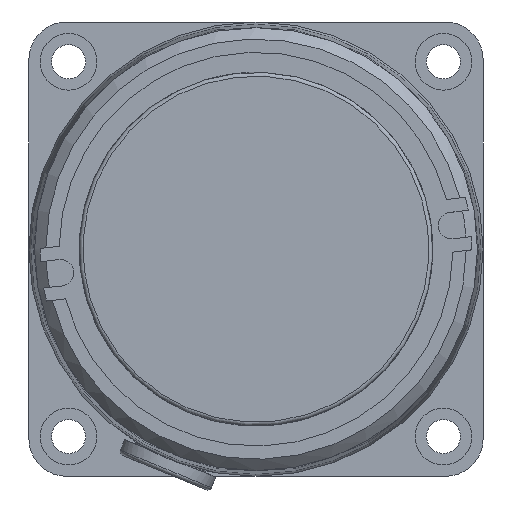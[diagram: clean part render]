
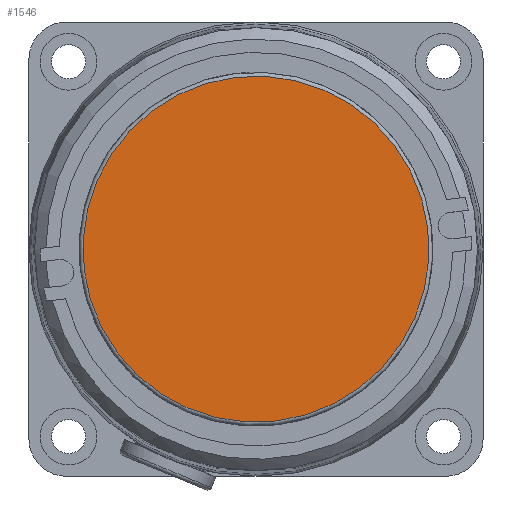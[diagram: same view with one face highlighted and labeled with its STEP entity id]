
A CAD part, left-side view. The second image highlights one B-rep face of the part: STEP entity #1546.
In plain terms, the highlighted planar face has unit normal (-1, 0, 0).
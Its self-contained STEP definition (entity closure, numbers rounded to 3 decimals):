
#1526=CARTESIAN_POINT('',(-11.5,2.734,22.686));
#1527=VERTEX_POINT('',#1526);
#1528=CARTESIAN_POINT('',(-11.5,0.,0.));
#1529=DIRECTION('',(1.0,0.,0.));
#1530=DIRECTION('',(0.,-0.12,-0.993));
#1531=AXIS2_PLACEMENT_3D('',#1528,#1529,#1530);
#1532=CIRCLE('',#1531,22.85);
#1533=EDGE_CURVE('',#1527,#1527,#1532,.T.);
#1538=CARTESIAN_POINT('',(-11.5,2.294,19.037));
#1539=DIRECTION('',(-1.0,0.0,0.0));
#1540=DIRECTION('',(0.0,-0.993,0.12));
#1541=AXIS2_PLACEMENT_3D('',#1538,#1539,#1540);
#1542=PLANE('',#1541);
#1543=ORIENTED_EDGE('',*,*,#1533,.F.);
#1544=EDGE_LOOP('',(#1543));
#1545=FACE_OUTER_BOUND('',#1544,.T.);
#1546=ADVANCED_FACE('',(#1545),#1542,.T.);
